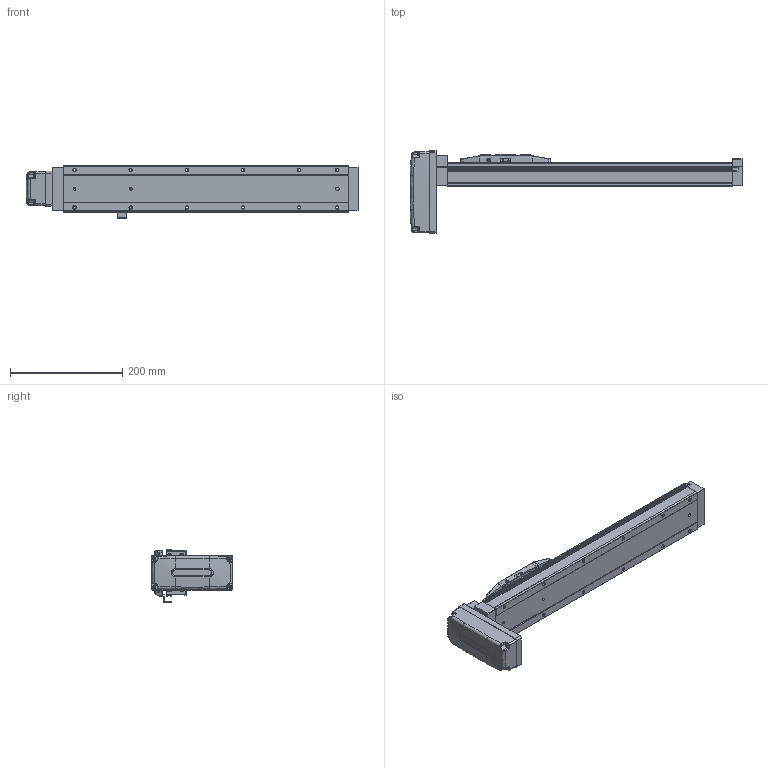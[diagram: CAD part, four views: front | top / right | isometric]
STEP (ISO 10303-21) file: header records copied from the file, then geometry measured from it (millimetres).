
FILE_DESCRIPTION (( 'STEP AP203' ), '1' );
FILE_NAME ('EFS-08D_P.STEP', '2025-07-17T09:00:46', ( '' ), ( '' ), 'SwSTEP 2.0', 'SolidWorks 2024', '' );
FILE_SCHEMA (( 'CONFIG_CONTROL_DESIGN' ));
Length unit declared in the file: millimetre
Products named in the file (1): EFS-08D_P
Bounding box: 591.5 x 146 x 94.5 mm (x, y, z)
Volume: 2195066.4 mm3; surface area: 273293.3 mm2
Topology: 15 solids, 15 shells, 931 faces, 2392 edges, 1520 vertices
Faces by surface type: plane 398, cylinder 317, cone 90, bspline 78, torus 38, sphere 10
Entity records: 32913 total; most frequent: CARTESIAN_POINT 10679, ORIENTED_EDGE 4712, DIRECTION 4481, EDGE_CURVE 2356, AXIS2_PLACEMENT_3D 1596, VERTEX_POINT 1520, LINE 1289, VECTOR 1289
